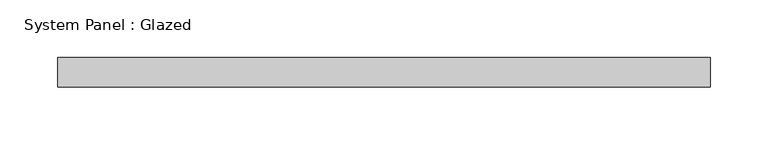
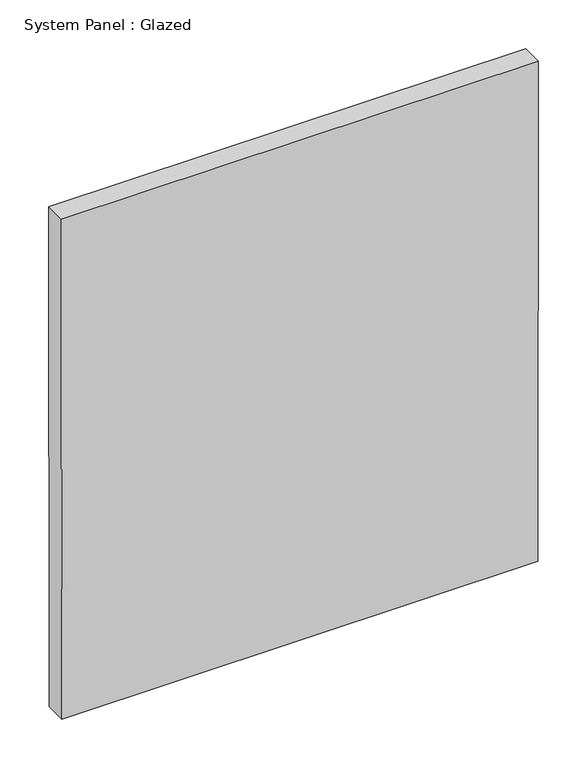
"""IFC4 building model written with IfcOpenShell, lengths in millimetres: plate geometry, System Panel : Glazed."""

import ifcopenshell
import ifcopenshell.guid

model = None  # the IFC model being written
_history = None  # IfcOwnerHistory: only IFC2X3 demands one
_inside = {}  # id of a spatial element -> (the spatial element, [elements in it])
_under = {}  # id of a project, library or spatial element -> (it, [spatial elements below it])
_declared = {}  # id of a project -> (the project, [libraries it declares])
_typed = {}  # id of a type object -> (the type object, [elements of that type])
_made_of = {}  # id of a material, layer set ... -> (it, [elements and type objects made of it])


def new_model(schema):
    """Start an empty IFC model of exactly this schema.

    Asked for "IFC4X3", IfcOpenShell would pick the latest addendum, in which some entities
    have other attributes; the version numbers below select the first issue.
    IFC2X3 requires an IfcOwnerHistory on every rooted entity: one is made here for all.
    """
    global model, _history
    if schema == "IFC4X3":
        model = ifcopenshell.file(schema_version=(4, 3, 0, 0))
    else:
        model = ifcopenshell.file(schema=schema)
    _inside.clear()
    _under.clear()
    _declared.clear()
    _typed.clear()
    _made_of.clear()
    _history = None
    if model.schema == "IFC2X3":
        org = make("IfcOrganization", Name="unknown")
        user = make(
            "IfcPersonAndOrganization",
            ThePerson=make("IfcPerson", FamilyName="unknown"),
            TheOrganization=org,
        )
        app = make(
            "IfcApplication",
            ApplicationDeveloper=org,
            Version="unknown",
            ApplicationFullName="unknown",
            ApplicationIdentifier="unknown",
        )
        _history = make(
            "IfcOwnerHistory",
            OwningUser=user,
            OwningApplication=app,
            ChangeAction="ADDED",
            CreationDate=0,
        )
    return model


def make(cls, **values):
    """One entity of the class cls with the attributes given. An attribute that is None is left unset."""
    return model.create_entity(
        cls, **{name: value for name, value in values.items() if value is not None}
    )


def rooted(cls, **values):
    """An entity with a GlobalId (a new one), such as an element, a storey or a relation."""
    return make(cls, GlobalId=ifcopenshell.guid.new(), OwnerHistory=_history, **values)


def si_unit(unit_type, name, prefix=None):
    """IfcSIUnit, for example si_unit("LENGTHUNIT", "METRE", prefix="MILLI")."""
    return make("IfcSIUnit", UnitType=unit_type, Prefix=prefix, Name=name)


def assignment(units):
    """IfcUnitAssignment: the units of a project."""
    return None if units is None else make("IfcUnitAssignment", Units=units)


def point(xyz):
    """IfcCartesianPoint."""
    return None if xyz is None else make("IfcCartesianPoint", Coordinates=xyz)


def direction(xyz):
    """IfcDirection."""
    return None if xyz is None else make("IfcDirection", DirectionRatios=xyz)


def frame(location, z_axis=None, x_axis=None):
    """IfcAxis2Placement3D, a coordinate frame: its origin and axes. An axis left out is left unset."""
    return make(
        "IfcAxis2Placement3D",
        Location=point(location),
        Axis=direction(z_axis),
        RefDirection=direction(x_axis),
    )


def origin():
    """The frame at (0, 0, 0) with its axes left unset."""
    return frame((0.0, 0.0, 0.0))


def place(relative_to, where):
    """IfcLocalPlacement: puts the frame where relative to a parent placement (None: the world)."""
    return make(
        "IfcLocalPlacement", PlacementRelTo=relative_to, RelativePlacement=where
    )


def context(
    kind, dimensions, precision=None, world=None, true_north=None, identifier=None
):
    """IfcGeometricRepresentationContext, for example the 3D "Model" context."""
    return make(
        "IfcGeometricRepresentationContext",
        ContextIdentifier=identifier,
        ContextType=kind,
        CoordinateSpaceDimension=dimensions,
        Precision=precision,
        WorldCoordinateSystem=world,
        TrueNorth=true_north,
    )


def project(units=None, contexts=None):
    """IfcProject with its units and contexts."""
    return rooted(
        "IfcProject",
        Name="project",
        RepresentationContexts=contexts,
        UnitsInContext=assignment(units),
    )


def spatial(cls, under=None, at=None, **own):
    """A site, building, storey or space (cls), placed at a placement, below another one or the project."""
    s = rooted(cls, ObjectPlacement=at, **own)
    if under is not None:
        _under.setdefault(under.id(), (under, []))[1].append(s)
    return s


def polyline(points):
    """IfcPolyline through the points."""
    return make("IfcPolyline", Points=[point(p) for p in points])


def outline(outer, holes=None, kind="AREA"):
    """IfcArbitraryClosedProfileDef: a profile drawn as a closed curve; with holes, ...WithVoids."""
    if holes is None:
        return make("IfcArbitraryClosedProfileDef", ProfileType=kind, OuterCurve=outer)
    return make(
        "IfcArbitraryProfileDefWithVoids",
        ProfileType=kind,
        OuterCurve=outer,
        InnerCurves=holes,
    )


def extrude(swept, where, along, depth):
    """IfcExtrudedAreaSolid: the profile swept, set in the frame where, extruded along a direction by depth."""
    return make(
        "IfcExtrudedAreaSolid",
        SweptArea=swept,
        Position=where,
        ExtrudedDirection=direction(along),
        Depth=depth,
    )


def shape(context_of_items, identifier, shape_type, items):
    """IfcShapeRepresentation: the items that make up one representation, for example the "Body"."""
    return make(
        "IfcShapeRepresentation",
        ContextOfItems=context_of_items,
        RepresentationIdentifier=identifier,
        RepresentationType=shape_type,
        Items=items,
    )


def source(mapping_origin, context_of_items, identifier, shape_type, items):
    """IfcRepresentationMap: a shape defined once, which mapped items show again and again."""
    return make(
        "IfcRepresentationMap",
        MappingOrigin=mapping_origin,
        MappedRepresentation=shape(context_of_items, identifier, shape_type, items),
    )


def transform(
    local_origin,
    x_axis=None,
    y_axis=None,
    z_axis=None,
    scale=None,
    scale2=None,
    scale3=None,
    uniform=True,
):
    """IfcCartesianTransformationOperator3D, or its non-uniform kind. x_axis, y_axis, z_axis: its Axis1, 2, 3."""
    if uniform:
        return make(
            "IfcCartesianTransformationOperator3D",
            Axis1=direction(x_axis),
            Axis2=direction(y_axis),
            LocalOrigin=point(local_origin),
            Scale=scale,
            Axis3=direction(z_axis),
        )
    return make(
        "IfcCartesianTransformationOperator3DnonUniform",
        Axis1=direction(x_axis),
        Axis2=direction(y_axis),
        LocalOrigin=point(local_origin),
        Scale=scale,
        Axis3=direction(z_axis),
        Scale2=scale2,
        Scale3=scale3,
    )


def mapped(mapping_source, mapping_target):
    """IfcMappedItem: shows the shape of a source again, moved by a transform."""
    return make(
        "IfcMappedItem", MappingSource=mapping_source, MappingTarget=mapping_target
    )


def made_of(thing, what):
    """Note that an element or type object is made of a material, layer set ...; save() writes the relation."""
    if what is not None:
        _made_of.setdefault(what.id(), (what, []))[1].append(thing)
    return thing


def element(
    cls,
    number,
    at=None,
    inside=None,
    cuts=None,
    type_object=None,
    material=None,
    context=None,
    identifier="Body",
    shape_type=None,
    held_by="IfcProductDefinitionShape",
    body=None,
    shapes=None,
    **own,
):
    """One element of the class cls, such as IfcWall. Its Tag is "e" and its number.

    at: its placement. inside: the storey or other place that contains it. cuts: it is an
    opening in that element (IfcRelVoidsElement). A single representation is given by context,
    identifier, shape_type and body (its items); several are given by shapes. held_by: the class
    of the entity that holds the representations. save() writes the other relations.
    """
    e = rooted(cls, Tag="e%d" % number, ObjectPlacement=at, **own)
    if body is not None:
        shapes = [shape(context, identifier, shape_type, body)]
    if shapes is not None:
        e.Representation = make(held_by, Representations=shapes)
    if inside is not None:
        _inside.setdefault(inside.id(), (inside, []))[1].append(e)
    if cuts is not None:
        rooted(
            "IfcRelVoidsElement", RelatingBuildingElement=cuts, RelatedOpeningElement=e
        )
    if type_object is not None:
        _typed.setdefault(type_object.id(), (type_object, []))[1].append(e)
    return made_of(e, material)


def aggregate(whole, parts):
    """IfcRelAggregates: a whole, such as a stair, and the parts it consists of."""
    return rooted("IfcRelAggregates", RelatingObject=whole, RelatedObjects=parts)


def save(model, path):
    """Write the relations noted so far, then the file.

    IfcRelAggregates (storeys below a building ...), IfcRelContainedInSpatialStructure (elements
    in a storey), IfcRelDefinesByType, IfcRelAssociatesMaterial and IfcRelDeclares: one each for
    every whole, place, type object, material and project.
    """
    for whole, parts in _under.values():
        aggregate(whole, parts)
    for where, things in _inside.values():
        rooted(
            "IfcRelContainedInSpatialStructure",
            RelatedElements=things,
            RelatingStructure=where,
        )
    for kind, things in _typed.values():
        rooted("IfcRelDefinesByType", RelatedObjects=things, RelatingType=kind)
    for what, things in _made_of.values():
        rooted("IfcRelAssociatesMaterial", RelatedObjects=things, RelatingMaterial=what)
    for by, libraries in _declared.values():
        rooted("IfcRelDeclares", RelatingContext=by, RelatedDefinitions=libraries)
    model.write(path)


def system_panel_glazed_6d60a9ea(model_context):
    return source(origin(), model_context, "Body", "SweptSolid", [
        extrude(outline(polyline([(0.0, -281.6648053), (0.0, 281.6648053), (625.938359, 282.3262788), (625.938359, -282.3262788), (0.0, -281.6648053)])), frame((0.0, 19.05, 0.0), z_axis=(0.0, 1.0, 0.0), x_axis=(0.0, 0.0, 1.0)), (0.0, 0.0, 1.0), 25.4),
    ])


if __name__ == "__main__":
    model = new_model("IFC4")
    model_context = context("Model", 3, world=origin())
    ifc_project = project(units=[si_unit("LENGTHUNIT", "METRE", prefix="MILLI")], contexts=[model_context])
    site = spatial("IfcSite", under=ifc_project)
    building = spatial("IfcBuilding", under=site)
    placement = place(None, origin())
    system_panel_glazed_shape = system_panel_glazed_6d60a9ea(model_context)
    element("IfcPlate", 1, ObjectType="System Panel : Glazed", at=placement, inside=building, context=model_context, shape_type="MappedRepresentation", body=[
        mapped(system_panel_glazed_shape, transform((0.0, 0.0, 0.0), x_axis=(1.0, 0.0, 0.0), y_axis=(0.0, 1.0, 0.0), z_axis=(0.0, 0.0, 1.0))),
    ])
    save(model, "model.ifc")
